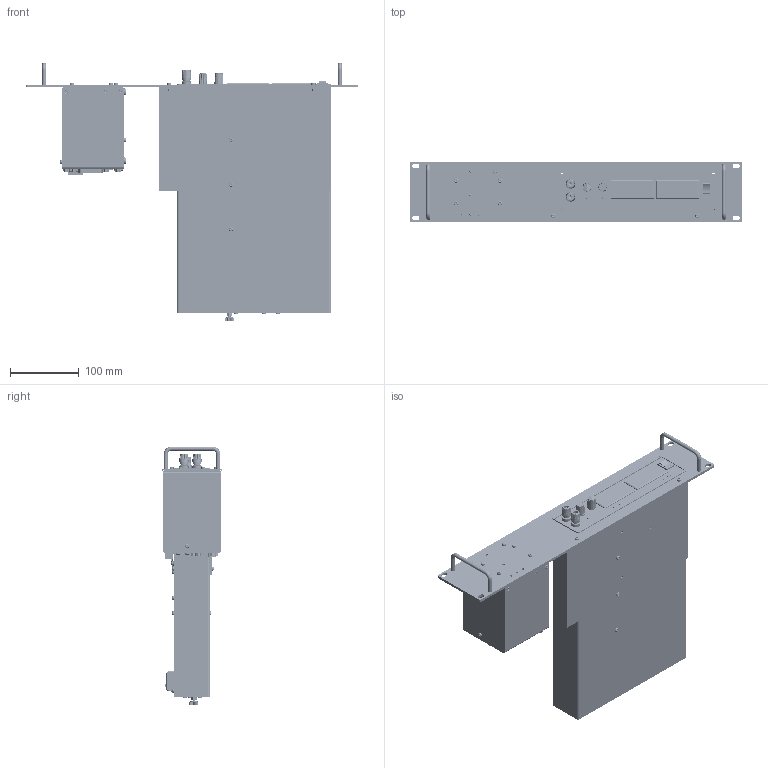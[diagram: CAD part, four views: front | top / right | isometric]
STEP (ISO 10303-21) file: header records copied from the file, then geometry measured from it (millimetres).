
FILE_DESCRIPTION(/* description */ (''),/* implementation_level */ '2;1');
FILE_NAME(/* name */ 'A:\Data\ES300\Option\RA19 ES300-PSC488\step file\Assembly RA19-1 ES300-PSC488.stp',/* time_stamp */ '2021-01-04T15:04:18+01:00',/* author */ ('Delta'),/* organization */ (''),/* preprocessor_version */ 'ST-DEVELOPER v17.2',/* originating_system */ 'Autodesk Inventor 2019',/* authorisation */ '');
FILE_SCHEMA (('AUTOMOTIVE_DESIGN { 1 0 10303 214 3 1 1 }'));
Products named in the file (1): Assembly RA19-1 ES300-PSC488_Shrinkwrap_1
Bounding box: 482.5 x 88.1 x 375.95 mm (x, y, z)
Surface area: 464750 mm2 (no closed solid volume)
Topology: 0 solids, 1 shells, 5078 faces, 12737 edges, 8068 vertices
Faces by surface type: plane 3043, cylinder 833, bspline 485, cone 458, torus 188, sphere 71
Full cylindrical faces by diameter (mm): 0.9 x9, 1 x15, 1.1 x24, 1.5 x8, 2.156 x10, 2.459 x4, 2.75 x8, 2.9 x7, 3 x6, 3.1 x6, 3.2 x13, 3.4 x4, 3.5 x179, 4 x12, 4.1 x4, 4.14 x4, 4.2 x4, 4.3 x4, 4.5 x6, 4.75 x4, 5 x1, 5.5 x5, 5.8 x1, 6 x76, 6.7 x2, 6.8 x4, 7 x1, 7.8 x2, 8 x4, 8.8 x3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
Entity records: 166944 total; most frequent: CARTESIAN_POINT 43804, ORIENTED_EDGE 25310, DIRECTION 23387, EDGE_CURVE 12655, AXIS2_PLACEMENT_3D 8233, VERTEX_POINT 8068, LINE 6921, VECTOR 6921
